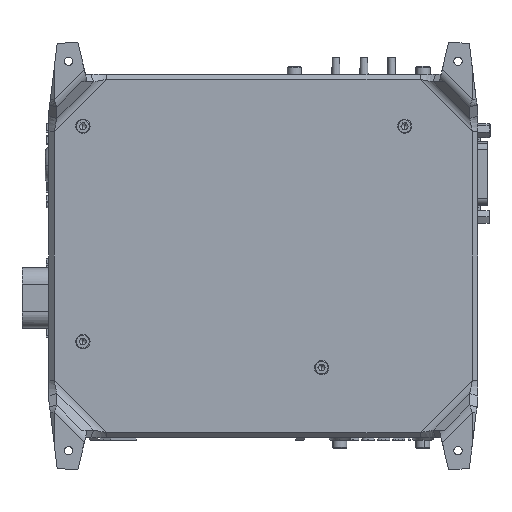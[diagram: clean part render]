
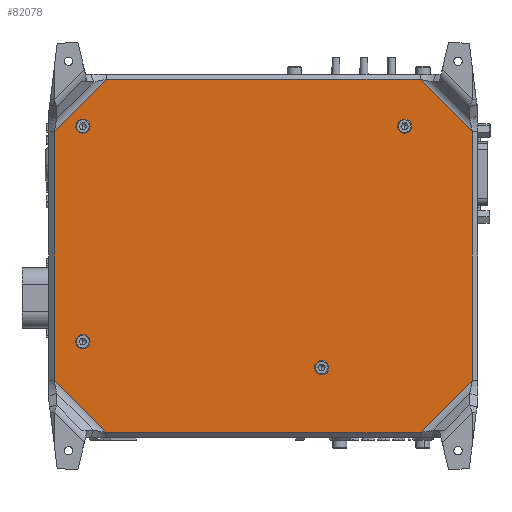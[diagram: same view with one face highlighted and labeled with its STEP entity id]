
A CAD part, front view. The second image highlights one B-rep face of the part: STEP entity #82078.
In plain terms, the highlighted planar face has unit normal (0, -1, 0).
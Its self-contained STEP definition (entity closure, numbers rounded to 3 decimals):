
#396 = DIRECTION ( 'NONE',  ( -1., 0., 0. ) ) ;
#1224 = CARTESIAN_POINT ( 'NONE',  ( -72.355, -8.183, -40.5 ) ) ;
#1902 = CARTESIAN_POINT ( 'NONE',  ( 54.845, -8.183, 42.5 ) ) ;
#5061 = DIRECTION ( 'NONE',  ( -1., 0., 0. ) ) ;
#5975 = CARTESIAN_POINT ( 'NONE',  ( -61.684, -8.183, 60.55 ) ) ;
#6288 = CIRCLE ( 'NONE', #146875, 1.6 ) ;
#7508 = FACE_BOUND ( 'NONE', #36260, .T. ) ;
#8041 = EDGE_CURVE ( 'NONE', #89731, #131812, #143155, .T. ) ;
#11299 = EDGE_CURVE ( 'NONE', #128934, #134120, #27028, .T. ) ;
#11697 = AXIS2_PLACEMENT_3D ( 'NONE', #135053, #31785, #123668 ) ;
#12521 = LINE ( 'NONE', #65357, #29048 ) ;
#12829 = ORIENTED_EDGE ( 'NONE', *, *, #62795, .T. ) ;
#15385 = ORIENTED_EDGE ( 'NONE', *, *, #103728, .T. ) ;
#15671 = EDGE_LOOP ( 'NONE', ( #131667, #147775 ) ) ;
#18020 = EDGE_CURVE ( 'NONE', #89880, #119260, #118012, .T. ) ;
#18022 = ORIENTED_EDGE ( 'NONE', *, *, #94820, .T. ) ;
#18902 = FACE_OUTER_BOUND ( 'NONE', #80204, .T. ) ;
#19446 = ORIENTED_EDGE ( 'NONE', *, *, #11299, .T. ) ;
#19539 = CARTESIAN_POINT ( 'NONE',  ( 51.645, -8.183, 42.5 ) ) ;
#19668 = EDGE_CURVE ( 'NONE', #104515, #20351, #83993, .T. ) ;
#20351 = VERTEX_POINT ( 'NONE', #72462 ) ;
#21600 = DIRECTION ( 'NONE',  ( 0., 1., 0. ) ) ;
#22107 = VERTEX_POINT ( 'NONE', #71471 ) ;
#23817 = VECTOR ( 'NONE', #26296, 1000. ) ;
#24766 = LINE ( 'NONE', #130305, #60666 ) ;
#24832 = CIRCLE ( 'NONE', #146143, 1.6 ) ;
#26296 = DIRECTION ( 'NONE',  ( -0.707, 0., -0.707 ) ) ;
#27028 = CIRCLE ( 'NONE', #85238, 1.6 ) ;
#27310 = LINE ( 'NONE', #129084, #33556 ) ;
#28400 = CARTESIAN_POINT ( 'NONE',  ( 22.845, -8.183, -50.5 ) ) ;
#29048 = VECTOR ( 'NONE', #111646, 1000. ) ;
#31031 = FACE_BOUND ( 'NONE', #95971, .T. ) ;
#31785 = DIRECTION ( 'NONE',  ( 0., 1., 0. ) ) ;
#32800 = CARTESIAN_POINT ( 'NONE',  ( -70.755, -8.183, -40.5 ) ) ;
#33064 = DIRECTION ( 'NONE',  ( 0., 1., 0. ) ) ;
#33556 = VECTOR ( 'NONE', #73615, 1000. ) ;
#35144 = DIRECTION ( 'NONE',  ( 0., 0., 1. ) ) ;
#35498 = DIRECTION ( 'NONE',  ( -1., 0., 0. ) ) ;
#35566 = VERTEX_POINT ( 'NONE', #110939 ) ;
#36229 = VERTEX_POINT ( 'NONE', #94711 ) ;
#36259 = ORIENTED_EDGE ( 'NONE', *, *, #84044, .T. ) ;
#36260 = EDGE_LOOP ( 'NONE', ( #109619, #15385 ) ) ;
#36893 = DIRECTION ( 'NONE',  ( 0.707, 0., -0.707 ) ) ;
#40250 = DIRECTION ( 'NONE',  ( -1., 0., 0. ) ) ;
#41727 = VERTEX_POINT ( 'NONE', #58179 ) ;
#42414 = PLANE ( 'NONE',  #11697 ) ;
#42936 = AXIS2_PLACEMENT_3D ( 'NONE', #131235, #96279, #142637 ) ;
#45286 = AXIS2_PLACEMENT_3D ( 'NONE', #51360, #143254, #5061 ) ;
#46730 = CARTESIAN_POINT ( 'NONE',  ( 21.245, -8.183, -50.5 ) ) ;
#51360 = CARTESIAN_POINT ( 'NONE',  ( -70.755, -8.183, 42.5 ) ) ;
#57557 = ORIENTED_EDGE ( 'NONE', *, *, #64878, .T. ) ;
#58179 = CARTESIAN_POINT ( 'NONE',  ( 59.174, -8.183, 60.55 ) ) ;
#58814 = DIRECTION ( 'NONE',  ( 0., 1., 0. ) ) ;
#60666 = VECTOR ( 'NONE', #36893, 1000. ) ;
#62795 = EDGE_CURVE ( 'NONE', #92691, #98243, #112006, .T. ) ;
#63799 = CARTESIAN_POINT ( 'NONE',  ( 59.174, -8.183, -75.55 ) ) ;
#64878 = EDGE_CURVE ( 'NONE', #36229, #92691, #24766, .T. ) ;
#65357 = CARTESIAN_POINT ( 'NONE',  ( 58.345, -8.183, 61.378 ) ) ;
#71471 = CARTESIAN_POINT ( 'NONE',  ( 79.295, -8.183, -55.429 ) ) ;
#71726 = DIRECTION ( 'NONE',  ( -1., 0., 0. ) ) ;
#72462 = CARTESIAN_POINT ( 'NONE',  ( -81.805, -8.183, 40.428 ) ) ;
#73615 = DIRECTION ( 'NONE',  ( 0.707, 0., 0.707 ) ) ;
#77232 = EDGE_CURVE ( 'NONE', #41727, #104515, #101588, .T. ) ;
#77644 = AXIS2_PLACEMENT_3D ( 'NONE', #108578, #83561, #40250 ) ;
#79247 = LINE ( 'NONE', #82207, #147508 ) ;
#79300 = CARTESIAN_POINT ( 'NONE',  ( 21.245, -8.183, -50.5 ) ) ;
#80204 = EDGE_LOOP ( 'NONE', ( #36259, #102691, #18022, #91134, #126877, #141490, #57557, #12829 ) ) ;
#80813 = ORIENTED_EDGE ( 'NONE', *, *, #102008, .T. ) ;
#82078 = ADVANCED_FACE ( 'NONE', ( #87969, #31031, #134291, #7508, #18902 ), #42414, .F. ) ;
#82207 = CARTESIAN_POINT ( 'NONE',  ( 79.295, -8.183, -7.5 ) ) ;
#83561 = DIRECTION ( 'NONE',  ( 0., 1., 0. ) ) ;
#83973 = CIRCLE ( 'NONE', #108229, 1.6 ) ;
#83993 = LINE ( 'NONE', #130331, #23817 ) ;
#84044 = EDGE_CURVE ( 'NONE', #98243, #22107, #27310, .T. ) ;
#85238 = AXIS2_PLACEMENT_3D ( 'NONE', #79300, #21600, #114206 ) ;
#85266 = VECTOR ( 'NONE', #115759, 1000. ) ;
#87969 = FACE_BOUND ( 'NONE', #15671, .T. ) ;
#88382 = CARTESIAN_POINT ( 'NONE',  ( -61.684, -8.183, -75.55 ) ) ;
#89731 = VERTEX_POINT ( 'NONE', #1902 ) ;
#89880 = VERTEX_POINT ( 'NONE', #131668 ) ;
#89967 = CARTESIAN_POINT ( 'NONE',  ( -81.805, -8.183, -7.5 ) ) ;
#91134 = ORIENTED_EDGE ( 'NONE', *, *, #77232, .T. ) ;
#91479 = LINE ( 'NONE', #89967, #85266 ) ;
#91804 = CARTESIAN_POINT ( 'NONE',  ( 19.645, -8.183, -50.5 ) ) ;
#92245 = AXIS2_PLACEMENT_3D ( 'NONE', #46730, #129440, #71726 ) ;
#92262 = DIRECTION ( 'NONE',  ( -1., 0., 0. ) ) ;
#92691 = VERTEX_POINT ( 'NONE', #88382 ) ;
#93199 = CARTESIAN_POINT ( 'NONE',  ( -1.255, -8.183, 60.55 ) ) ;
#94711 = CARTESIAN_POINT ( 'NONE',  ( -81.805, -8.183, -55.429 ) ) ;
#94820 = EDGE_CURVE ( 'NONE', #35566, #41727, #12521, .T. ) ;
#95971 = EDGE_LOOP ( 'NONE', ( #80813, #110059 ) ) ;
#96279 = DIRECTION ( 'NONE',  ( 0., 1., 0. ) ) ;
#98243 = VERTEX_POINT ( 'NONE', #63799 ) ;
#101269 = VERTEX_POINT ( 'NONE', #125796 ) ;
#101588 = LINE ( 'NONE', #93199, #119533 ) ;
#102008 = EDGE_CURVE ( 'NONE', #119260, #89880, #108372, .T. ) ;
#102691 = ORIENTED_EDGE ( 'NONE', *, *, #106181, .T. ) ;
#102825 = EDGE_CURVE ( 'NONE', #131812, #89731, #6288, .T. ) ;
#103728 = EDGE_CURVE ( 'NONE', #101269, #116965, #83973, .T. ) ;
#104515 = VERTEX_POINT ( 'NONE', #5975 ) ;
#105103 = CARTESIAN_POINT ( 'NONE',  ( 53.245, -8.183, 42.5 ) ) ;
#106181 = EDGE_CURVE ( 'NONE', #22107, #35566, #79247, .T. ) ;
#108229 = AXIS2_PLACEMENT_3D ( 'NONE', #112027, #33064, #92262 ) ;
#108372 = CIRCLE ( 'NONE', #42936, 1.6 ) ;
#108578 = CARTESIAN_POINT ( 'NONE',  ( 53.245, -8.183, 42.5 ) ) ;
#109619 = ORIENTED_EDGE ( 'NONE', *, *, #110558, .T. ) ;
#110059 = ORIENTED_EDGE ( 'NONE', *, *, #18020, .T. ) ;
#110558 = EDGE_CURVE ( 'NONE', #116965, #101269, #24832, .T. ) ;
#110939 = CARTESIAN_POINT ( 'NONE',  ( 79.295, -8.183, 40.428 ) ) ;
#111250 = DIRECTION ( 'NONE',  ( 1., 0., 0. ) ) ;
#111646 = DIRECTION ( 'NONE',  ( -0.707, 0., 0.707 ) ) ;
#112006 = LINE ( 'NONE', #124179, #116396 ) ;
#112027 = CARTESIAN_POINT ( 'NONE',  ( -70.755, -8.183, -40.5 ) ) ;
#114206 = DIRECTION ( 'NONE',  ( -1., 0., 0. ) ) ;
#115759 = DIRECTION ( 'NONE',  ( 0., 0., -1. ) ) ;
#116396 = VECTOR ( 'NONE', #111250, 1000. ) ;
#116965 = VERTEX_POINT ( 'NONE', #1224 ) ;
#118012 = CIRCLE ( 'NONE', #45286, 1.6 ) ;
#119260 = VERTEX_POINT ( 'NONE', #134239 ) ;
#119533 = VECTOR ( 'NONE', #35498, 1000. ) ;
#120746 = EDGE_CURVE ( 'NONE', #134120, #128934, #131048, .T. ) ;
#123175 = DIRECTION ( 'NONE',  ( -1., 0., 0. ) ) ;
#123668 = DIRECTION ( 'NONE',  ( -1., 0., 0. ) ) ;
#124179 = CARTESIAN_POINT ( 'NONE',  ( -1.255, -8.183, -75.55 ) ) ;
#125796 = CARTESIAN_POINT ( 'NONE',  ( -69.155, -8.183, -40.5 ) ) ;
#126877 = ORIENTED_EDGE ( 'NONE', *, *, #19668, .T. ) ;
#128934 = VERTEX_POINT ( 'NONE', #91804 ) ;
#129084 = CARTESIAN_POINT ( 'NONE',  ( 80.123, -8.183, -54.601 ) ) ;
#129440 = DIRECTION ( 'NONE',  ( 0., 1., 0. ) ) ;
#130305 = CARTESIAN_POINT ( 'NONE',  ( -60.855, -8.183, -76.379 ) ) ;
#130331 = CARTESIAN_POINT ( 'NONE',  ( -82.633, -8.183, 39.6 ) ) ;
#131048 = CIRCLE ( 'NONE', #92245, 1.6 ) ;
#131235 = CARTESIAN_POINT ( 'NONE',  ( -70.755, -8.183, 42.5 ) ) ;
#131458 = EDGE_LOOP ( 'NONE', ( #19446, #147270 ) ) ;
#131667 = ORIENTED_EDGE ( 'NONE', *, *, #102825, .T. ) ;
#131668 = CARTESIAN_POINT ( 'NONE',  ( -69.155, -8.183, 42.5 ) ) ;
#131812 = VERTEX_POINT ( 'NONE', #19539 ) ;
#133817 = DIRECTION ( 'NONE',  ( 0., 1., 0. ) ) ;
#134120 = VERTEX_POINT ( 'NONE', #28400 ) ;
#134239 = CARTESIAN_POINT ( 'NONE',  ( -72.355, -8.183, 42.5 ) ) ;
#134291 = FACE_BOUND ( 'NONE', #131458, .T. ) ;
#135053 = CARTESIAN_POINT ( 'NONE',  ( -1.255, -8.183, -7.5 ) ) ;
#141490 = ORIENTED_EDGE ( 'NONE', *, *, #144085, .T. ) ;
#142637 = DIRECTION ( 'NONE',  ( -1., 0., 0. ) ) ;
#143155 = CIRCLE ( 'NONE', #77644, 1.6 ) ;
#143254 = DIRECTION ( 'NONE',  ( 0., 1., 0. ) ) ;
#144085 = EDGE_CURVE ( 'NONE', #20351, #36229, #91479, .T. ) ;
#146143 = AXIS2_PLACEMENT_3D ( 'NONE', #32800, #133817, #123175 ) ;
#146875 = AXIS2_PLACEMENT_3D ( 'NONE', #105103, #58814, #396 ) ;
#147270 = ORIENTED_EDGE ( 'NONE', *, *, #120746, .T. ) ;
#147508 = VECTOR ( 'NONE', #35144, 1000. ) ;
#147775 = ORIENTED_EDGE ( 'NONE', *, *, #8041, .T. ) ;
